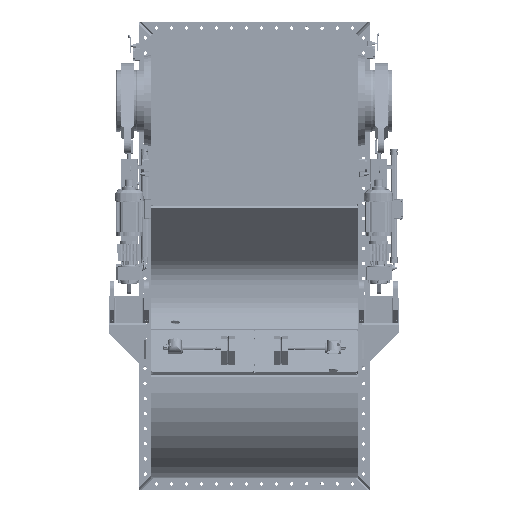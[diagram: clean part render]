
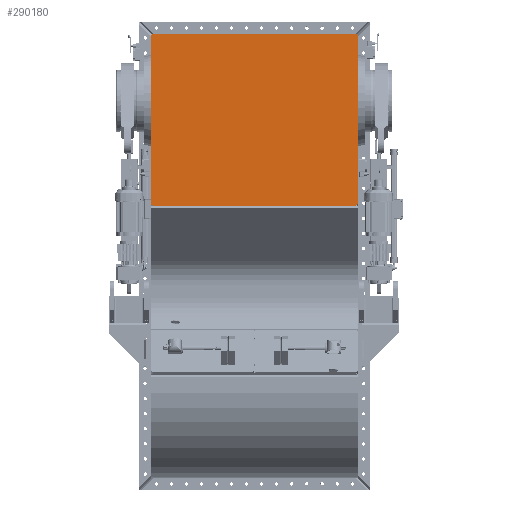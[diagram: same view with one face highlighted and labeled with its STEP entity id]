
A CAD part, top view. The second image highlights one B-rep face of the part: STEP entity #290180.
In plain terms, the highlighted planar face has unit normal (0, 0, 1).
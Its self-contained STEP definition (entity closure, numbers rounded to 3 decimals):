
#26756=FACE_OUTER_BOUND('',#43414,.T.);
#43414=EDGE_LOOP('',(#207982,#207983,#207984,#207985,#207986,#207987,#207988,
#207989));
#64622=LINE('',#486460,#86607);
#64623=LINE('',#486464,#86608);
#64624=LINE('',#486468,#86609);
#64625=LINE('',#486471,#86610);
#86607=VECTOR('',#348278,10.);
#86608=VECTOR('',#348281,10.);
#86609=VECTOR('',#348284,10.);
#86610=VECTOR('',#348287,10.);
#100896=CIRCLE('',#307639,12.);
#100897=CIRCLE('',#307640,12.);
#100898=CIRCLE('',#307641,12.);
#100899=CIRCLE('',#307642,12.);
#118070=VERTEX_POINT('',#486456);
#118071=VERTEX_POINT('',#486457);
#118072=VERTEX_POINT('',#486459);
#118073=VERTEX_POINT('',#486461);
#118074=VERTEX_POINT('',#486463);
#118075=VERTEX_POINT('',#486465);
#118076=VERTEX_POINT('',#486467);
#118077=VERTEX_POINT('',#486469);
#150316=EDGE_CURVE('',#118070,#118071,#100896,.T.);
#150317=EDGE_CURVE('',#118072,#118070,#64622,.T.);
#150318=EDGE_CURVE('',#118073,#118072,#100897,.T.);
#150319=EDGE_CURVE('',#118074,#118073,#64623,.T.);
#150320=EDGE_CURVE('',#118075,#118074,#100898,.T.);
#150321=EDGE_CURVE('',#118076,#118075,#64624,.T.);
#150322=EDGE_CURVE('',#118077,#118076,#100899,.T.);
#150323=EDGE_CURVE('',#118071,#118077,#64625,.T.);
#207982=ORIENTED_EDGE('',*,*,#150316,.F.);
#207983=ORIENTED_EDGE('',*,*,#150317,.F.);
#207984=ORIENTED_EDGE('',*,*,#150318,.F.);
#207985=ORIENTED_EDGE('',*,*,#150319,.F.);
#207986=ORIENTED_EDGE('',*,*,#150320,.F.);
#207987=ORIENTED_EDGE('',*,*,#150321,.F.);
#207988=ORIENTED_EDGE('',*,*,#150322,.F.);
#207989=ORIENTED_EDGE('',*,*,#150323,.F.);
#263615=PLANE('',#307638);
#290180=ADVANCED_FACE('',(#26756),#263615,.T.);
#307638=AXIS2_PLACEMENT_3D('',#486455,#348274,#348275);
#307639=AXIS2_PLACEMENT_3D('',#486458,#348276,#348277);
#307640=AXIS2_PLACEMENT_3D('',#486462,#348279,#348280);
#307641=AXIS2_PLACEMENT_3D('',#486466,#348282,#348283);
#307642=AXIS2_PLACEMENT_3D('',#486470,#348285,#348286);
#348274=DIRECTION('center_axis',(0.,0.,
1.));
#348275=DIRECTION('ref_axis',(0.,1.,0.));
#348276=DIRECTION('center_axis',(0.,0.,
-1.));
#348277=DIRECTION('ref_axis',(0.707,0.707,0.));
#348278=DIRECTION('',(1.,0.,0.));
#348279=DIRECTION('center_axis',(0.,0.,
-1.));
#348280=DIRECTION('ref_axis',(-0.707,0.707,0.));
#348281=DIRECTION('',(0.,1.,0.));
#348282=DIRECTION('center_axis',(0.,0.,
-1.));
#348283=DIRECTION('ref_axis',(-0.707,-0.707,0.));
#348284=DIRECTION('',(-1.,0.,0.));
#348285=DIRECTION('center_axis',(0.,0.,
-1.));
#348286=DIRECTION('ref_axis',(0.707,-0.707,0.));
#348287=DIRECTION('',(0.,-1.,0.));
#486455=CARTESIAN_POINT('Origin',(-549.5,-102.5,702.175));
#486456=CARTESIAN_POINT('',(-12.,355.,702.175));
#486457=CARTESIAN_POINT('',(0.,343.,702.175));
#486458=CARTESIAN_POINT('Origin',(-12.,343.,702.175));
#486459=CARTESIAN_POINT('',(-1087.,355.,702.175));
#486460=CARTESIAN_POINT('',(-1099.,355.,702.175));
#486461=CARTESIAN_POINT('',(-1099.,343.,702.175));
#486462=CARTESIAN_POINT('Origin',(-1087.,343.,702.175));
#486463=CARTESIAN_POINT('',(-1099.,-548.,702.175));
#486464=CARTESIAN_POINT('',(-1099.,-560.,702.175));
#486465=CARTESIAN_POINT('',(-1087.,-560.,702.175));
#486466=CARTESIAN_POINT('Origin',(-1087.,-548.,702.175));
#486467=CARTESIAN_POINT('',(-12.,-560.,702.175));
#486468=CARTESIAN_POINT('',(0.,-560.,702.175));
#486469=CARTESIAN_POINT('',(0.,-548.,702.175));
#486470=CARTESIAN_POINT('Origin',(-12.,-548.,702.175));
#486471=CARTESIAN_POINT('',(0.,355.,702.175));
